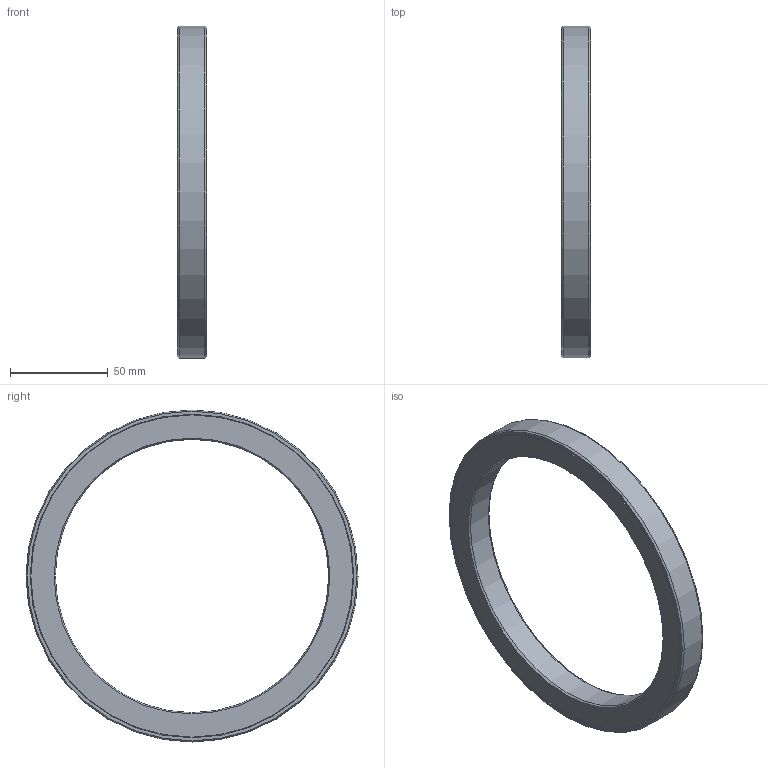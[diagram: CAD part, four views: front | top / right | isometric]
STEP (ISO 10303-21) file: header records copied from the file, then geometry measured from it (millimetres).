
FILE_DESCRIPTION(/* description */ (''),/* implementation_level */ '2;1');
FILE_NAME(/* name */ '301301 L 140x170x15.stp',/* time_stamp */ '2016-12-15T10:25:29+01:00',/* author */ (''),/* organization */ (''),/* preprocessor_version */ 'ST-DEVELOPER v15',/* originating_system */ 'SIEMENS PLM Software NX 8.5',/* authorisation */ '');
FILE_SCHEMA (('CONFIG_CONTROL_DESIGN'));
Length unit declared in the file: millimetre
Products named in the file (1): ATE0000122_01
Bounding box: 15 x 170 x 170 mm (x, y, z)
Volume: 106541.3 mm3; surface area: 44458.1 mm2
Topology: 2 solids, 2 shells, 18 faces, 34 edges, 20 vertices
Faces by surface type: cone 12, plane 4, cylinder 2
Full cylindrical faces by diameter (mm): 140 x1, 170 x1
Entity records: 454 total; most frequent: DIRECTION 74, CARTESIAN_POINT 55, AXIS2_PLACEMENT_3D 37, FACE_BOUND 36, EDGE_LOOP 36, ORIENTED_EDGE 36, ADVANCED_FACE 18, VERTEX_POINT 18
